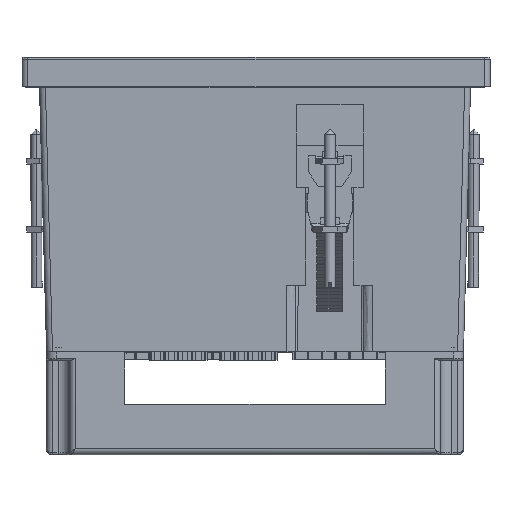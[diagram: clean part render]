
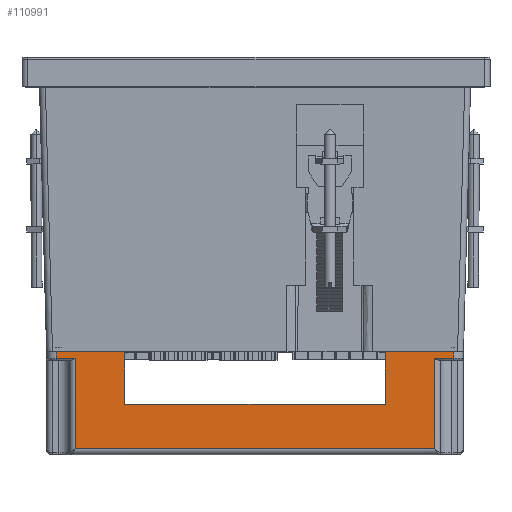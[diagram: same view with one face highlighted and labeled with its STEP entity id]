
A CAD part, front view. The second image highlights one B-rep face of the part: STEP entity #110991.
In plain terms, the highlighted planar face has unit normal (0, -1, 0) as drawn and (1, 0, 0) by its records, which use the part's own axes.
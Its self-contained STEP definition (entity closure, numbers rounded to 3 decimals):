
#784 = LINE ( 'NONE', #72648, #59081 ) ;
#1299 = DIRECTION ( 'NONE',  ( 0., 0., 1. ) ) ;
#1952 = LINE ( 'NONE', #175000, #95141 ) ;
#3193 = EDGE_CURVE ( 'NONE', #174458, #141511, #106525, .T. ) ;
#3327 = CARTESIAN_POINT ( 'NONE',  ( 53., -33.15, 13.4 ) ) ;
#4035 = ORIENTED_EDGE ( 'NONE', *, *, #42811, .F. ) ;
#5476 = LINE ( 'NONE', #40373, #153950 ) ;
#5643 = EDGE_CURVE ( 'NONE', #121361, #105954, #56416, .T. ) ;
#8089 = DIRECTION ( 'NONE',  ( 0., 0., -1. ) ) ;
#8417 = CARTESIAN_POINT ( 'NONE',  ( 53., 50.5, 0. ) ) ;
#9367 = LINE ( 'NONE', #26285, #53499 ) ;
#11641 = LINE ( 'NONE', #101436, #216913 ) ;
#11747 = EDGE_CURVE ( 'NONE', #174458, #154515, #94550, .T. ) ;
#13836 = LINE ( 'NONE', #205955, #117284 ) ;
#15437 = CARTESIAN_POINT ( 'NONE',  ( 53., 50.5, 1.66 ) ) ;
#17942 = CARTESIAN_POINT ( 'NONE',  ( 53., -33.15, 0. ) ) ;
#23453 = DIRECTION ( 'NONE',  ( 0., -1., 0. ) ) ;
#26285 = CARTESIAN_POINT ( 'NONE',  ( 53., -50.5, 1.66 ) ) ;
#27541 = CARTESIAN_POINT ( 'NONE',  ( 53., -50.5, 1.66 ) ) ;
#30629 = LINE ( 'NONE', #131822, #103833 ) ;
#32545 = CARTESIAN_POINT ( 'NONE',  ( 53., -45.668, 1.66 ) ) ;
#33287 = ORIENTED_EDGE ( 'NONE', *, *, #161940, .T. ) ;
#39114 = ORIENTED_EDGE ( 'NONE', *, *, #5643, .F. ) ;
#40373 = CARTESIAN_POINT ( 'NONE',  ( 53., -33.15, 13.4 ) ) ;
#42811 = EDGE_CURVE ( 'NONE', #105954, #52978, #5476, .T. ) ;
#44613 = EDGE_CURVE ( 'NONE', #162780, #221234, #215932, .T. ) ;
#50527 = VECTOR ( 'NONE', #8089, 1000. ) ;
#52071 = DIRECTION ( 'NONE',  ( 0., -1., 0. ) ) ;
#52548 = DIRECTION ( 'NONE',  ( 0., 0., -1. ) ) ;
#52978 = VERTEX_POINT ( 'NONE', #3327 ) ;
#53499 = VECTOR ( 'NONE', #176882, 1000. ) ;
#54213 = ORIENTED_EDGE ( 'NONE', *, *, #125165, .F. ) ;
#56416 = LINE ( 'NONE', #174333, #128664 ) ;
#59081 = VECTOR ( 'NONE', #52548, 1000. ) ;
#59317 = CARTESIAN_POINT ( 'NONE',  ( 53., 50.5, 26.2 ) ) ;
#70840 = ORIENTED_EDGE ( 'NONE', *, *, #131684, .T. ) ;
#72648 = CARTESIAN_POINT ( 'NONE',  ( 53., -33.15, 13.4 ) ) ;
#75326 = ORIENTED_EDGE ( 'NONE', *, *, #135511, .T. ) ;
#81182 = DIRECTION ( 'NONE',  ( 0., 1., 0. ) ) ;
#87876 = CARTESIAN_POINT ( 'NONE',  ( 53., 33.15, 13.4 ) ) ;
#90064 = CARTESIAN_POINT ( 'NONE',  ( 53., 50.5, 26.2 ) ) ;
#91136 = EDGE_LOOP ( 'NONE', ( #70840, #139380, #97474, #33287, #54213, #4035, #39114, #123993, #168812, #173482, #91875, #75326 ) ) ;
#91875 = ORIENTED_EDGE ( 'NONE', *, *, #191144, .T. ) ;
#93478 = CARTESIAN_POINT ( 'NONE',  ( 53., -50.5, 26.2 ) ) ;
#94550 = LINE ( 'NONE', #90064, #136125 ) ;
#95141 = VECTOR ( 'NONE', #104202, 1000. ) ;
#95204 = DIRECTION ( 'NONE',  ( 0., -1., 0. ) ) ;
#97474 = ORIENTED_EDGE ( 'NONE', *, *, #44613, .T. ) ;
#101436 = CARTESIAN_POINT ( 'NONE',  ( 53., -45.668, 26.2 ) ) ;
#103833 = VECTOR ( 'NONE', #81182, 1000. ) ;
#104202 = DIRECTION ( 'NONE',  ( 0., 0., 1. ) ) ;
#105954 = VERTEX_POINT ( 'NONE', #87876 ) ;
#106525 = LINE ( 'NONE', #107673, #214300 ) ;
#107673 = CARTESIAN_POINT ( 'NONE',  ( 53., 45.668, 1.66 ) ) ;
#110991 = ADVANCED_FACE ( 'NONE', ( #212124 ), #146976, .F. ) ;
#111003 = DIRECTION ( 'NONE',  ( -1., 0., 0. ) ) ;
#115674 = VERTEX_POINT ( 'NONE', #124393 ) ;
#116625 = AXIS2_PLACEMENT_3D ( 'NONE', #59317, #111003, #95204 ) ;
#117284 = VECTOR ( 'NONE', #52071, 1000. ) ;
#118742 = EDGE_CURVE ( 'NONE', #164896, #162780, #9367, .T. ) ;
#120541 = CARTESIAN_POINT ( 'NONE',  ( 53., 33.15, 0. ) ) ;
#120772 = VERTEX_POINT ( 'NONE', #17942 ) ;
#121361 = VERTEX_POINT ( 'NONE', #120541 ) ;
#121935 = CARTESIAN_POINT ( 'NONE',  ( 53., -50.5, 0. ) ) ;
#123993 = ORIENTED_EDGE ( 'NONE', *, *, #221479, .T. ) ;
#124241 = LINE ( 'NONE', #8417, #140881 ) ;
#124393 = CARTESIAN_POINT ( 'NONE',  ( 53., -45.668, 24.7 ) ) ;
#125165 = EDGE_CURVE ( 'NONE', #52978, #120772, #784, .T. ) ;
#126499 = DIRECTION ( 'NONE',  ( 0., 1., 0. ) ) ;
#128664 = VECTOR ( 'NONE', #1299, 1000. ) ;
#131684 = EDGE_CURVE ( 'NONE', #115674, #164896, #11641, .T. ) ;
#131822 = CARTESIAN_POINT ( 'NONE',  ( 53., 50.5, 0. ) ) ;
#135511 = EDGE_CURVE ( 'NONE', #181373, #115674, #13836, .T. ) ;
#136125 = VECTOR ( 'NONE', #160841, 1000. ) ;
#139188 = DIRECTION ( 'NONE',  ( 0., -1., 0. ) ) ;
#139380 = ORIENTED_EDGE ( 'NONE', *, *, #118742, .T. ) ;
#140881 = VECTOR ( 'NONE', #126499, 1000. ) ;
#141511 = VERTEX_POINT ( 'NONE', #178466 ) ;
#146976 = PLANE ( 'NONE',  #116625 ) ;
#153950 = VECTOR ( 'NONE', #23453, 1000. ) ;
#154515 = VERTEX_POINT ( 'NONE', #157395 ) ;
#157395 = CARTESIAN_POINT ( 'NONE',  ( 53., 50.5, 0. ) ) ;
#160841 = DIRECTION ( 'NONE',  ( 0., 0., -1. ) ) ;
#161940 = EDGE_CURVE ( 'NONE', #221234, #120772, #124241, .T. ) ;
#162780 = VERTEX_POINT ( 'NONE', #27541 ) ;
#164896 = VERTEX_POINT ( 'NONE', #32545 ) ;
#166693 = DIRECTION ( 'NONE',  ( 0., 0., -1. ) ) ;
#168812 = ORIENTED_EDGE ( 'NONE', *, *, #11747, .F. ) ;
#173482 = ORIENTED_EDGE ( 'NONE', *, *, #3193, .T. ) ;
#174333 = CARTESIAN_POINT ( 'NONE',  ( 53., 33.15, 13.4 ) ) ;
#174458 = VERTEX_POINT ( 'NONE', #15437 ) ;
#175000 = CARTESIAN_POINT ( 'NONE',  ( 53., 45.668, 26.2 ) ) ;
#176882 = DIRECTION ( 'NONE',  ( 0., -1., 0. ) ) ;
#178466 = CARTESIAN_POINT ( 'NONE',  ( 53., 45.668, 1.66 ) ) ;
#181373 = VERTEX_POINT ( 'NONE', #191000 ) ;
#191000 = CARTESIAN_POINT ( 'NONE',  ( 53., 45.668, 24.7 ) ) ;
#191144 = EDGE_CURVE ( 'NONE', #141511, #181373, #1952, .T. ) ;
#205955 = CARTESIAN_POINT ( 'NONE',  ( 53., 50.5, 24.7 ) ) ;
#212124 = FACE_OUTER_BOUND ( 'NONE', #91136, .T. ) ;
#214300 = VECTOR ( 'NONE', #139188, 1000. ) ;
#215932 = LINE ( 'NONE', #93478, #50527 ) ;
#216913 = VECTOR ( 'NONE', #166693, 1000. ) ;
#221234 = VERTEX_POINT ( 'NONE', #121935 ) ;
#221479 = EDGE_CURVE ( 'NONE', #121361, #154515, #30629, .T. ) ;
